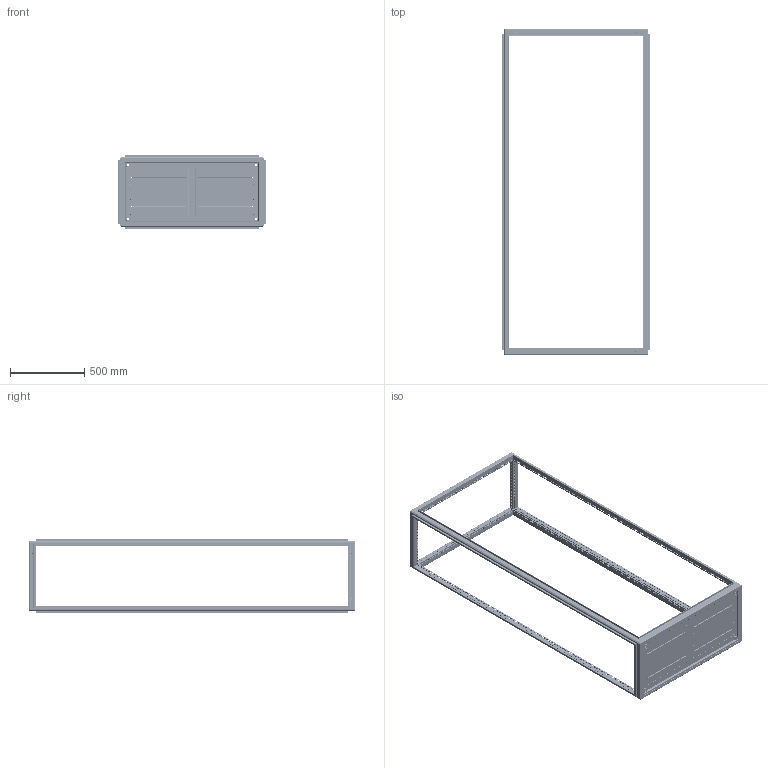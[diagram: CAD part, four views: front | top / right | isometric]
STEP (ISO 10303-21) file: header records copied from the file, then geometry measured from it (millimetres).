
FILE_DESCRIPTION(('STEP AP242'), '1');
FILE_NAME('ÊÑÊ.PRO.S.220.100.50 Êàðêàñ_ñåêöèîíèðîâàíèå', '', ('UNSPECIFIED'), ('UNSPECIFIED'), 'C3D Converter', 'C3D Toolkit', '');
FILE_SCHEMA(('AP242_MANAGED_MODEL_BASED_3D_ENGINEERING_MIM_LF { 1 0 10303 442 1 1 4 }'));
Length unit declared in the file: millimetre
Products named in the file (13): КСК.PRO.S.220.100.50; КСК.PRO.S.100.50; КСК.PRO.220; КСК.PRO.100.50; КСК.PRO.S.220; 2007.100.75; 2008.100.200; 2006.50
Assembly tree (33 placements, depth 2):
  КСК.PRO.S.220.100.50
    КСК.PRO.S.100.50
    КСК.PRO.220
    КСК.PRO.100.50
    КСК.PRO.220
    КСК.PRO.S.220
    КСК.PRO.S.220
    2007.100.75  x2
    2007.100.75  x2
    2008.100.200
    2008.100.200
    (unnamed)  x20
    2006.50
Bounding box: 997 x 2197 x 497 mm (x, y, z)
Volume: 4023645 mm3; surface area: 5257210.6 mm2
Topology: 33 solids, 33 shells, 10001 faces, 28105 edges, 18397 vertices
Faces by surface type: plane 7021, cylinder 2348, cone 432, bspline 120, torus 48, sphere 32
Full cylindrical faces by diameter (mm): 3.242 x56, 4.134 x180, 4.5 x1472, 4.8 x20, 6 x56, 6.5 x4, 7 x180, 10.106 x4, 13.835 x4, 14 x4, 21.545 x4
Entity records: 329765 total; most frequent: CARTESIAN_POINT 53936, ORIENTED_EDGE 48702, DIRECTION 47564, EDGE_CURVE 24351, LINE 19622, VECTOR 19622, EDGE_LOOP 17852, VERTEX_POINT 17413
